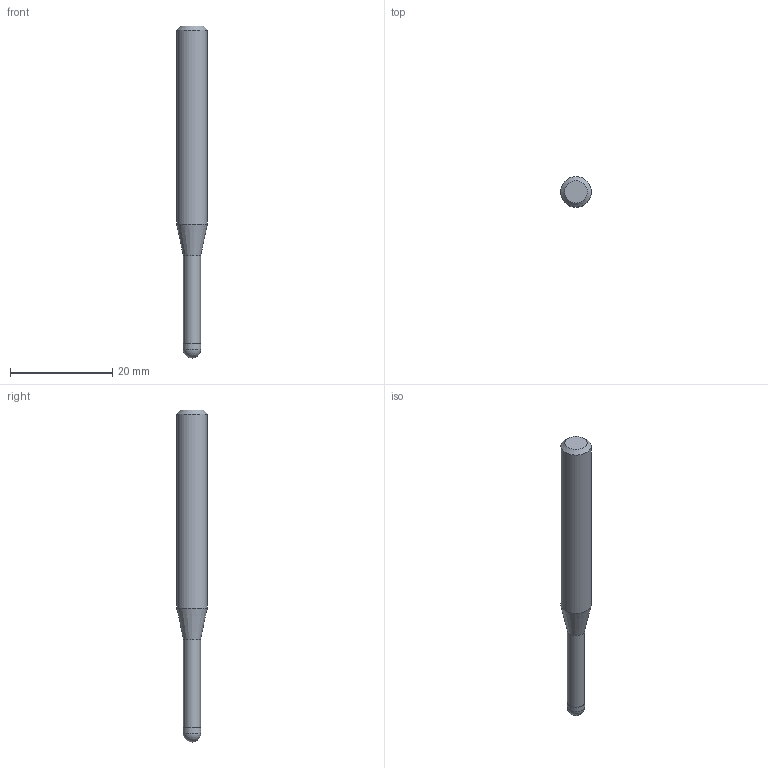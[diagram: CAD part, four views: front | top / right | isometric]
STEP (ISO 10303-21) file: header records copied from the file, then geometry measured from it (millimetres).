
FILE_DESCRIPTION((''),'2;1');
FILE_NAME('C:\Users\nsx150\AppData\Local\Temp\Mastercam 2021\3SYKECWX22\TEMP.step','2021-04-22T10:05:09',(''),(''),'STEP Write','Mastercam 2021 ... CNC Software, Inc.','');
FILE_SCHEMA(('AUTOMOTIVE_DESIGN'));
Length unit declared in the file: millimetre
Products named in the file (1): None
Bounding box: 6 x 6 x 65 mm (x, y, z)
Volume: 1373.4 mm3; surface area: 1073.2 mm2
Topology: 2 solids, 2 shells, 9 faces, 14 edges, 8 vertices
Faces by surface type: plane 3, cylinder 3, cone 2, sphere 1
Full cylindrical faces by diameter (mm): 3.35 x1, 3.5 x1, 6 x1
Entity records: 211 total; most frequent: DIRECTION 36, CARTESIAN_POINT 25, AXIS2_PLACEMENT_3D 18, ORIENTED_EDGE 14, EDGE_LOOP 14, STYLED_ITEM 12, ADVANCED_FACE 9, FACE_BOUND 8
